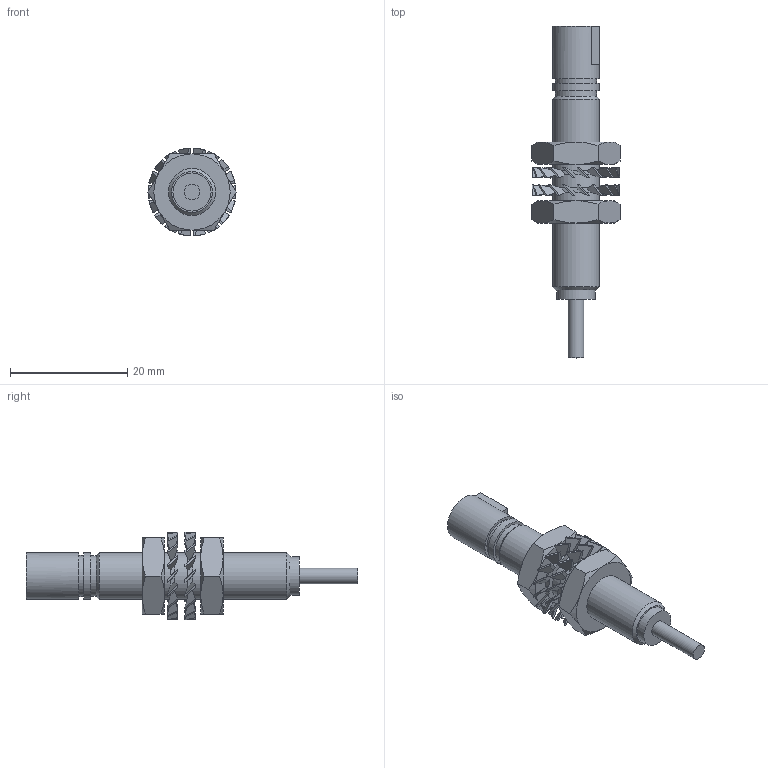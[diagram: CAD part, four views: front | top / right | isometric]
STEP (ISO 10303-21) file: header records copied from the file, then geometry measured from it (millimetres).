
FILE_DESCRIPTION (( 'STEP AP203' ), '1' );
FILE_NAME ('Bi-GS880-X.step', '2018-08-29T19:21:58', ( '' ), ( '' ), 'SwSTEP 2.0', 'SolidWorks 2017', '' );
FILE_SCHEMA (( 'CONFIG_CONTROL_DESIGN' ));
Length unit declared in the file: millimetre
Products named in the file (1): Bi-GS880-X
Bounding box: 15.01 x 56.6 x 14.99 mm (x, y, z)
Volume: 3281.8 mm3; surface area: 3123.1 mm2
Topology: 5 solids, 5 shells, 295 faces, 810 edges, 530 vertices
Faces by surface type: plane 144, cone 103, cylinder 48
Full cylindrical faces by diameter (mm): 2.7 x1, 6.499 x1, 6.647 x2, 7 x1, 8 x3, 8.4 x2
Entity records: 9162 total; most frequent: CARTESIAN_POINT 2065, ORIENTED_EDGE 1576, DIRECTION 1391, EDGE_CURVE 788, VERTEX_POINT 525, AXIS2_PLACEMENT_3D 499, LINE 393, VECTOR 393
